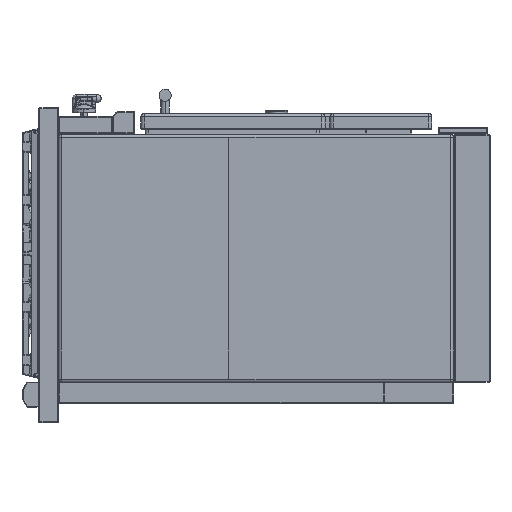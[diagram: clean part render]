
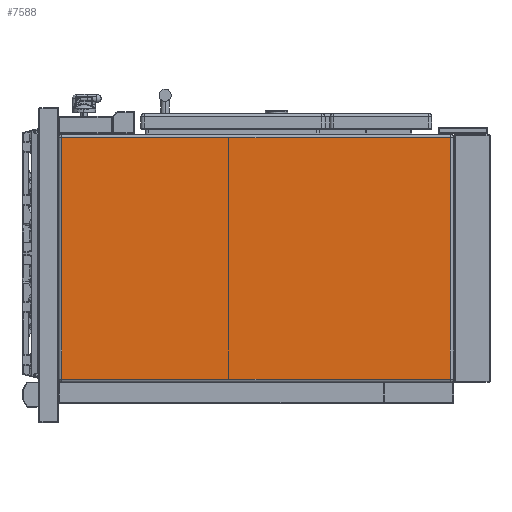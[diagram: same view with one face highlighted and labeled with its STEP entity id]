
A CAD part, left-side view. The second image highlights one B-rep face of the part: STEP entity #7588.
In plain terms, the highlighted planar face has unit normal (-1, 0, 0).
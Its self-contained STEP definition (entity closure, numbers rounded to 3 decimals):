
#1963=DIRECTION('',(0.,1.,0.));
#1964=VECTOR('',#1963,801.);
#1965=CARTESIAN_POINT('',(-900.,82.,249.));
#1966=LINE('',#1965,#1964);
#1967=DIRECTION('',(0.,0.,1.));
#1968=VECTOR('',#1967,498.);
#1969=CARTESIAN_POINT('',(-900.,82.,-249.));
#1970=LINE('',#1969,#1968);
#1971=DIRECTION('',(0.,-1.,0.));
#1972=VECTOR('',#1971,801.);
#1973=CARTESIAN_POINT('',(-900.,883.,-249.));
#1974=LINE('',#1973,#1972);
#1975=DIRECTION('',(0.,0.,-1.));
#1976=VECTOR('',#1975,498.);
#1977=CARTESIAN_POINT('',(-900.,883.,249.));
#1978=LINE('',#1977,#1976);
#3150=CARTESIAN_POINT('',(-900.,82.,249.));
#3151=CARTESIAN_POINT('',(-900.,883.,249.));
#3152=VERTEX_POINT('',#3150);
#3153=VERTEX_POINT('',#3151);
#3154=CARTESIAN_POINT('',(-900.,82.,-249.));
#3155=VERTEX_POINT('',#3154);
#3172=CARTESIAN_POINT('',(-900.,883.,-249.));
#3173=VERTEX_POINT('',#3172);
#7575=CARTESIAN_POINT('',(-900.,0.,0.));
#7576=DIRECTION('',(1.,0.,0.));
#7577=DIRECTION('',(0.,0.,-1.));
#7578=AXIS2_PLACEMENT_3D('',#7575,#7576,#7577);
#7579=PLANE('',#7578);
#7580=ORIENTED_EDGE('',*,*,#7541,.F.);
#7581=ORIENTED_EDGE('',*,*,#7565,.F.);
#7583=ORIENTED_EDGE('',*,*,#7582,.F.);
#7585=ORIENTED_EDGE('',*,*,#7584,.F.);
#7586=EDGE_LOOP('',(#7580,#7581,#7583,#7585));
#7587=FACE_OUTER_BOUND('',#7586,.F.);
#7541=EDGE_CURVE('',#3152,#3153,#1966,.T.);
#7565=EDGE_CURVE('',#3155,#3152,#1970,.T.);
#7582=EDGE_CURVE('',#3173,#3155,#1974,.T.);
#7584=EDGE_CURVE('',#3153,#3173,#1978,.T.);
#7588=ADVANCED_FACE('',(#7587),#7579,.F.);
